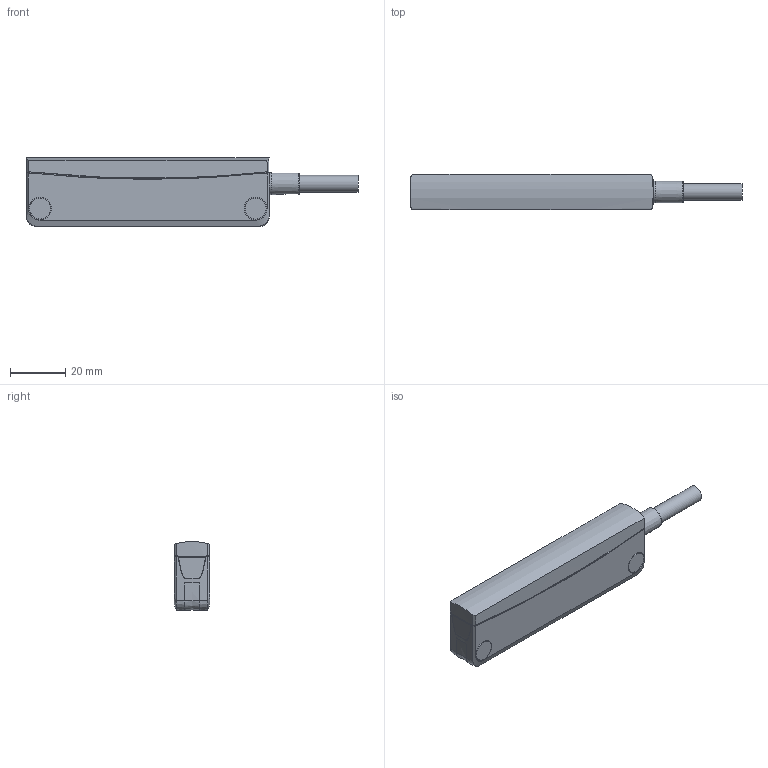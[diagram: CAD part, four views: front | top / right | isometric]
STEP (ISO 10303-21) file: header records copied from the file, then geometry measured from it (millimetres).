
FILE_DESCRIPTION(/* description */ ('Katalogmodell Elobau'),/* implementation_level */ '2;1');
FILE_NAME(/* name */ 'Katalogdaten.stp',/* time_stamp */ '2015-01-22T12:19:21+01:00',/* author */ ('Elobau GmbH & Co. KG'),/* organization */ ('Elobau GmbH & Co. KG'),/* preprocessor_version */ 'ST-DEVELOPER v15',/* originating_system */ 'SIEMENS PLM Software NX 8.5',/* authorisation */ '');
FILE_SCHEMA (('AUTOMOTIVE_DESIGN { 1 0 10303 214 3 1 1 1 }'));
Length unit declared in the file: millimetre
Products named in the file (1): 165ESK00K..._A
Bounding box: 120.2 x 13 x 24.93 mm (x, y, z)
Volume: 27924.7 mm3; surface area: 8667.5 mm2
Topology: 5 solids, 5 shells, 99 faces, 252 edges, 172 vertices
Faces by surface type: bspline 36, cylinder 29, plane 26, cone 5, sphere 2, torus 1
Full cylindrical faces by diameter (mm): 4.5 x2, 6 x1, 7.6 x4, 7.9 x1, 8.2 x4
Entity records: 4572 total; most frequent: CARTESIAN_POINT 2404, ORIENTED_EDGE 452, DIRECTION 270, EDGE_CURVE 226, VERTEX_POINT 166, B_SPLINE_CURVE_WITH_KNOTS 149, EDGE_LOOP 132, AXIS2_PLACEMENT_3D 129
